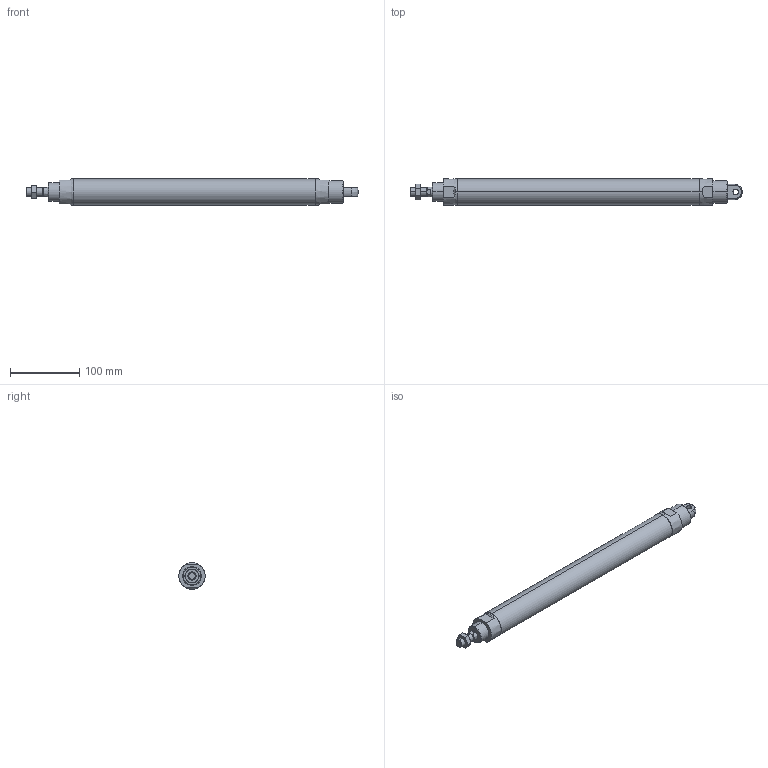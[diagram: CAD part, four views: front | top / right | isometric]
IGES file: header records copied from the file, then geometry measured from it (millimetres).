
Start section: SolidWorks IGES file using analytic representation for surfaces
Global section: file name: C:\Users\Toshiba\Desktop\J#2-32-300-C.IGS; native system: SolidWorks 2014; preprocessor: SolidWorks 2014; author: Toshiba; date: 160308.155127; units: millimetre
Bounding box: 479 x 38 x 38 mm (x, y, z)
Surface area: 56508.2 mm2 (no closed solid volume)
Topology: 0 solids, 0 shells, 81 faces, 1552 edges, 1548 vertices
Faces by surface type: bspline 42, revolution 39
